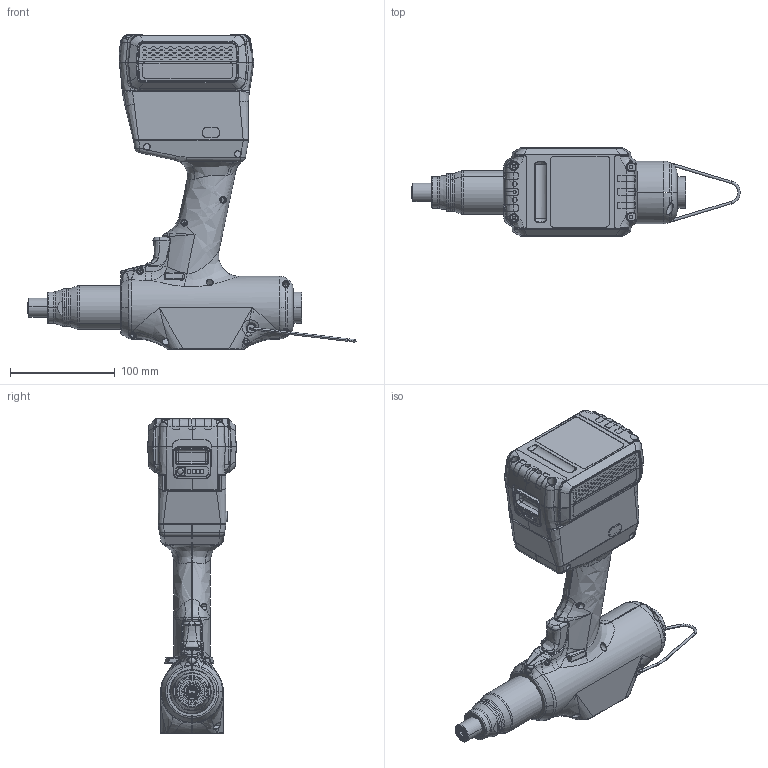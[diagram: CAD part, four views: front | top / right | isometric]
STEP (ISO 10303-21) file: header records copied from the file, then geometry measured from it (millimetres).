
FILE_DESCRIPTION (( 'STEP AP214' ), '1' );
FILE_NAME ('20QSÅ¡½ôÇ¹.STEP', '2025-09-30T04:04:00', ( '' ), ( '' ), 'SwSTEP 2.0', 'SolidWorks 2021', '' );
FILE_SCHEMA (( 'AUTOMOTIVE_DESIGN' ));
Length unit declared in the file: millimetre
Products named in the file (1): 20QS禳踡Л
Bounding box: 314.51 x 84.7 x 301.4 mm (x, y, z)
Surface area: 159880.4 mm2 (no closed solid volume)
Topology: 0 solids, 65 shells, 1810 faces, 6347 edges, 4434 vertices
Faces by surface type: plane 843, bspline 441, cylinder 334, torus 93, cone 57, sphere 42
Entity records: 116859 total; most frequent: CARTESIAN_POINT 48358, ORIENTED_EDGE 10013, DIRECTION 8443, EDGE_CURVE 6298, VERTEX_POINT 4434, VECTOR 3439, LINE 3439, AXIS2_PLACEMENT_3D 2502
